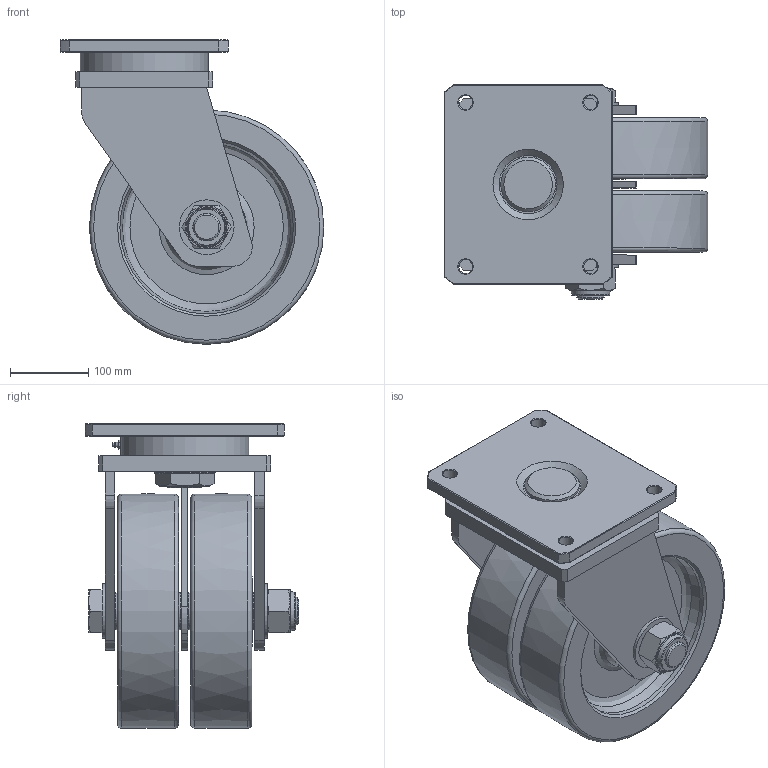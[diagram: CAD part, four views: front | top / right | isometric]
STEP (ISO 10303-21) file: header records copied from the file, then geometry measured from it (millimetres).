
FILE_DESCRIPTION((''),'2;1');
FILE_NAME('C:\Documents and Settings\Administrator\바탕 화면\3D STEP\GXTD-SERIES\GXTD-300\GXTD-300-SF.stp','2010-12-27T14:39:03',('Administrator'),(''),'Autodesk Inventor 2009','Autodesk Inventor 2009','');
FILE_SCHEMA(('AUTOMOTIVE_DESIGN { 1 0 10303 214 1 1 1 1 }'));
Length unit declared in the file: millimetre
Products named in the file (1): GXTD-300-SF
Bounding box: 337.5 x 273.7 x 390 mm (x, y, z)
Volume: 10464139.8 mm3; surface area: 1070692.7 mm2
Topology: 16 solids, 16 shells, 404 faces, 897 edges, 573 vertices
Faces by surface type: plane 139, cone 97, cylinder 96, torus 46, bspline 26
Full cylindrical faces by diameter (mm): 6 x2, 18 x4, 35 x6, 35.3 x2, 35.5 x1, 38 x2, 47.334 x8, 48 x1, 48.5 x1, 50 x2, 58 x1, 59.666 x8, 64 x2, 68 x1, 70 x3, 72 x8, 78 x1, 80 x2, 96 x4, 109.8 x1, 110 x2, 112 x1, 145 x2, 148 x1, 153 x1, 154.2 x1, 164 x1, 165 x1, 170 x1, 222 x4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
Entity records: 10724 total; most frequent: CARTESIAN_POINT 3054, DIRECTION 1658, ORIENTED_EDGE 1182, AXIS2_PLACEMENT_3D 748, EDGE_LOOP 707, EDGE_CURVE 591, VERTEX_POINT 480, FACE_OUTER_BOUND 404
